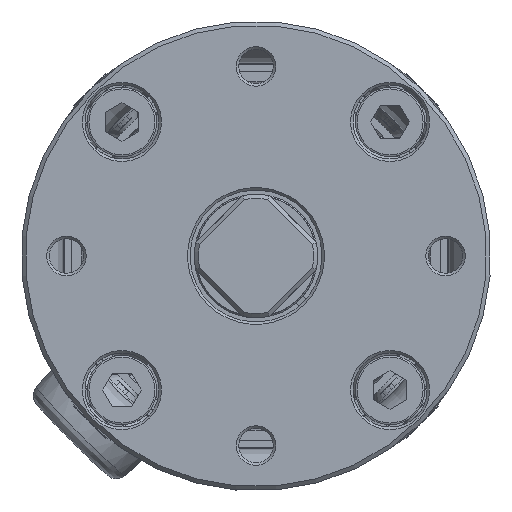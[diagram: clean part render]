
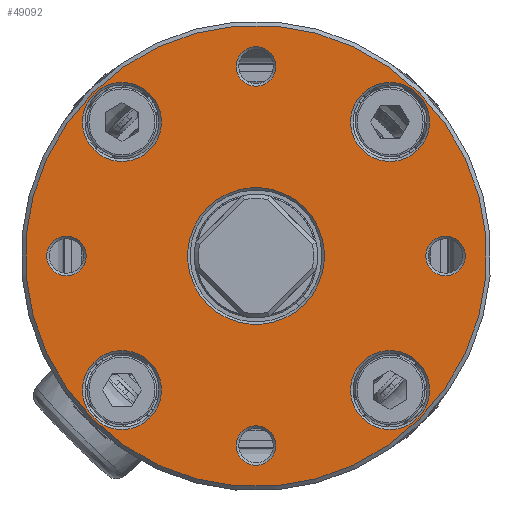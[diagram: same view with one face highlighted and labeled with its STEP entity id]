
A CAD part, left-side view. The second image highlights one B-rep face of the part: STEP entity #49092.
In plain terms, the highlighted planar face has unit normal (-1, 0, 0).
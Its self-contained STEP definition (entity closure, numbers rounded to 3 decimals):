
#192 = ORIENTED_EDGE ( 'NONE', *, *, #13704, .T. ) ;
#714 = AXIS2_PLACEMENT_3D ( 'NONE', #49463, #61330, #75396 ) ;
#1167 = CARTESIAN_POINT ( 'NONE',  ( -115.5, 16.263, -16.263 ) ) ;
#1591 = CIRCLE ( 'NONE', #43668, 4.8 ) ;
#3465 = EDGE_LOOP ( 'NONE', ( #62490 ) ) ;
#5791 = DIRECTION ( 'NONE',  ( 1., 0., 0. ) ) ;
#6710 = ORIENTED_EDGE ( 'NONE', *, *, #58701, .T. ) ;
#7348 = CARTESIAN_POINT ( 'NONE',  ( -115.5, 19.658, -12.869 ) ) ;
#10774 = FACE_BOUND ( 'NONE', #3465, .T. ) ;
#11477 = DIRECTION ( 'NONE',  ( 1., 0., 0. ) ) ;
#11498 = EDGE_CURVE ( 'NONE', #23068, #23068, #22424, .T. ) ;
#12731 = CARTESIAN_POINT ( 'NONE',  ( -115.5, -16.263, 16.263 ) ) ;
#13198 = CIRCLE ( 'NONE', #34884, 4.8 ) ;
#13303 = CARTESIAN_POINT ( 'NONE',  ( -115.5, 0., 23. ) ) ;
#13639 = DIRECTION ( 'NONE',  ( 1., 0., 0. ) ) ;
#13692 = PLANE ( 'NONE',  #49810 ) ;
#13704 = EDGE_CURVE ( 'NONE', #56694, #56694, #13198, .T. ) ;
#14064 = EDGE_LOOP ( 'NONE', ( #192 ) ) ;
#15592 = AXIS2_PLACEMENT_3D ( 'NONE', #32412, #52416, #83883 ) ;
#16305 = EDGE_LOOP ( 'NONE', ( #6710 ) ) ;
#16404 = AXIS2_PLACEMENT_3D ( 'NONE', #38913, #38481, #31288 ) ;
#18104 = CARTESIAN_POINT ( 'NONE',  ( -115.5, -23., 0. ) ) ;
#18844 = FACE_BOUND ( 'NONE', #16305, .T. ) ;
#20552 = EDGE_LOOP ( 'NONE', ( #56345 ) ) ;
#20852 = VERTEX_POINT ( 'NONE', #81251 ) ;
#22121 = CARTESIAN_POINT ( 'NONE',  ( -115.5, 1.697, 24.697 ) ) ;
#22424 = CIRCLE ( 'NONE', #79444, 2.4 ) ;
#22605 = ORIENTED_EDGE ( 'NONE', *, *, #67314, .T. ) ;
#23068 = VERTEX_POINT ( 'NONE', #42237 ) ;
#24775 = FACE_BOUND ( 'NONE', #20552, .T. ) ;
#25624 = EDGE_CURVE ( 'NONE', #65548, #65548, #1591, .T. ) ;
#27031 = DIRECTION ( 'NONE',  ( 1., 0., 0. ) ) ;
#27819 = CIRCLE ( 'NONE', #15592, 2.4 ) ;
#28966 = CARTESIAN_POINT ( 'NONE',  ( -115.5, 19.658, 19.658 ) ) ;
#29289 = EDGE_CURVE ( 'NONE', #83461, #83461, #33233, .T. ) ;
#30885 = EDGE_LOOP ( 'NONE', ( #57157 ) ) ;
#31288 = DIRECTION ( 'NONE',  ( 0., 0.707, 0.707 ) ) ;
#32412 = CARTESIAN_POINT ( 'NONE',  ( -115.5, 23., 0. ) ) ;
#32818 = DIRECTION ( 'NONE',  ( 0., 0.707, 0.707 ) ) ;
#33139 = EDGE_LOOP ( 'NONE', ( #22605 ) ) ;
#33233 = CIRCLE ( 'NONE', #714, 28. ) ;
#33989 = DIRECTION ( 'NONE',  ( 0., 0.707, 0.707 ) ) ;
#34038 = VERTEX_POINT ( 'NONE', #28966 ) ;
#34884 = AXIS2_PLACEMENT_3D ( 'NONE', #12731, #11477, #45051 ) ;
#36680 = CARTESIAN_POINT ( 'NONE',  ( -115.5, -12.869, 19.658 ) ) ;
#37535 = FACE_BOUND ( 'NONE', #14064, .T. ) ;
#38223 = EDGE_LOOP ( 'NONE', ( #41267 ) ) ;
#38367 = AXIS2_PLACEMENT_3D ( 'NONE', #63444, #53502, #45169 ) ;
#38481 = DIRECTION ( 'NONE',  ( 1., 0., 0. ) ) ;
#38913 = CARTESIAN_POINT ( 'NONE',  ( -115.5, -16.263, -16.263 ) ) ;
#41267 = ORIENTED_EDGE ( 'NONE', *, *, #83407, .T. ) ;
#41539 = DIRECTION ( 'NONE',  ( 0., 0.707, 0.707 ) ) ;
#42237 = CARTESIAN_POINT ( 'NONE',  ( -115.5, 1.697, -21.303 ) ) ;
#42617 = AXIS2_PLACEMENT_3D ( 'NONE', #13303, #52001, #32818 ) ;
#43123 = FACE_BOUND ( 'NONE', #50714, .T. ) ;
#43668 = AXIS2_PLACEMENT_3D ( 'NONE', #1167, #27031, #78923 ) ;
#43842 = CARTESIAN_POINT ( 'NONE',  ( -115.5, -21.303, 1.697 ) ) ;
#44120 = AXIS2_PLACEMENT_3D ( 'NONE', #81085, #67433, #41539 ) ;
#45051 = DIRECTION ( 'NONE',  ( 0., 0.707, 0.707 ) ) ;
#45169 = DIRECTION ( 'NONE',  ( 0., 0.707, 0.707 ) ) ;
#45931 = CARTESIAN_POINT ( 'NONE',  ( -115.5, 5.869, 5.869 ) ) ;
#46275 = EDGE_CURVE ( 'NONE', #34038, #34038, #80756, .T. ) ;
#49092 = ADVANCED_FACE ( 'NONE', ( #56702, #82633, #18844, #50313, #43123, #56282, #10774, #37535, #24775, #50736 ), #13692, .F. ) ;
#49463 = CARTESIAN_POINT ( 'NONE',  ( -115.5, 0., 0. ) ) ;
#49810 = AXIS2_PLACEMENT_3D ( 'NONE', #58332, #77924, #52414 ) ;
#50313 = FACE_BOUND ( 'NONE', #33139, .T. ) ;
#50714 = EDGE_LOOP ( 'NONE', ( #52005 ) ) ;
#50736 = FACE_OUTER_BOUND ( 'NONE', #54395, .T. ) ;
#52001 = DIRECTION ( 'NONE',  ( 1., 0., 0. ) ) ;
#52005 = ORIENTED_EDGE ( 'NONE', *, *, #57263, .T. ) ;
#52414 = DIRECTION ( 'NONE',  ( 0., 0.707, 0.707 ) ) ;
#52416 = DIRECTION ( 'NONE',  ( 1., 0., 0. ) ) ;
#53298 = CIRCLE ( 'NONE', #38367, 8.3 ) ;
#53502 = DIRECTION ( 'NONE',  ( 1., 0., 0. ) ) ;
#54395 = EDGE_LOOP ( 'NONE', ( #75037 ) ) ;
#56282 = FACE_BOUND ( 'NONE', #30885, .T. ) ;
#56345 = ORIENTED_EDGE ( 'NONE', *, *, #46275, .T. ) ;
#56694 = VERTEX_POINT ( 'NONE', #36680 ) ;
#56702 = FACE_BOUND ( 'NONE', #38223, .T. ) ;
#57157 = ORIENTED_EDGE ( 'NONE', *, *, #25624, .T. ) ;
#57263 = EDGE_CURVE ( 'NONE', #66761, #66761, #60137, .T. ) ;
#58332 = CARTESIAN_POINT ( 'NONE',  ( -115.5, 0., 0. ) ) ;
#58640 = CARTESIAN_POINT ( 'NONE',  ( -115.5, -12.869, -12.869 ) ) ;
#58701 = EDGE_CURVE ( 'NONE', #20852, #20852, #27819, .T. ) ;
#59029 = EDGE_LOOP ( 'NONE', ( #67729 ) ) ;
#60137 = CIRCLE ( 'NONE', #42617, 2.4 ) ;
#61223 = CIRCLE ( 'NONE', #16404, 4.8 ) ;
#61330 = DIRECTION ( 'NONE',  ( -1., 0., 0. ) ) ;
#62490 = ORIENTED_EDGE ( 'NONE', *, *, #82120, .T. ) ;
#63444 = CARTESIAN_POINT ( 'NONE',  ( -115.5, 0., 0. ) ) ;
#64629 = VERTEX_POINT ( 'NONE', #45931 ) ;
#65548 = VERTEX_POINT ( 'NONE', #7348 ) ;
#66761 = VERTEX_POINT ( 'NONE', #22121 ) ;
#67314 = EDGE_CURVE ( 'NONE', #68878, #68878, #71943, .T. ) ;
#67433 = DIRECTION ( 'NONE',  ( 1., 0., 0. ) ) ;
#67729 = ORIENTED_EDGE ( 'NONE', *, *, #11498, .T. ) ;
#68878 = VERTEX_POINT ( 'NONE', #43842 ) ;
#70980 = VERTEX_POINT ( 'NONE', #58640 ) ;
#71891 = CARTESIAN_POINT ( 'NONE',  ( -115.5, 0., -23. ) ) ;
#71943 = CIRCLE ( 'NONE', #78750, 2.4 ) ;
#75037 = ORIENTED_EDGE ( 'NONE', *, *, #29289, .T. ) ;
#75396 = DIRECTION ( 'NONE',  ( 0., 0.707, 0.707 ) ) ;
#77924 = DIRECTION ( 'NONE',  ( 1., 0., 0. ) ) ;
#78357 = CARTESIAN_POINT ( 'NONE',  ( -115.5, 19.799, 19.799 ) ) ;
#78750 = AXIS2_PLACEMENT_3D ( 'NONE', #18104, #5791, #83979 ) ;
#78923 = DIRECTION ( 'NONE',  ( 0., 0.707, 0.707 ) ) ;
#79444 = AXIS2_PLACEMENT_3D ( 'NONE', #71891, #13639, #33989 ) ;
#80756 = CIRCLE ( 'NONE', #44120, 4.8 ) ;
#81085 = CARTESIAN_POINT ( 'NONE',  ( -115.5, 16.263, 16.263 ) ) ;
#81251 = CARTESIAN_POINT ( 'NONE',  ( -115.5, 24.697, 1.697 ) ) ;
#82120 = EDGE_CURVE ( 'NONE', #70980, #70980, #61223, .T. ) ;
#82633 = FACE_BOUND ( 'NONE', #59029, .T. ) ;
#83407 = EDGE_CURVE ( 'NONE', #64629, #64629, #53298, .T. ) ;
#83461 = VERTEX_POINT ( 'NONE', #78357 ) ;
#83883 = DIRECTION ( 'NONE',  ( 0., 0.707, 0.707 ) ) ;
#83979 = DIRECTION ( 'NONE',  ( 0., 0.707, 0.707 ) ) ;
